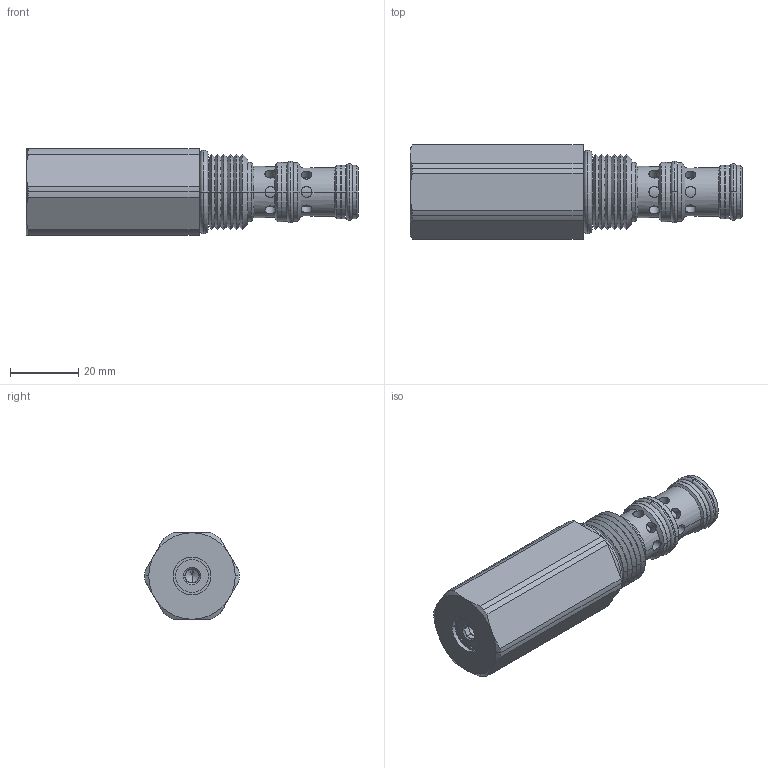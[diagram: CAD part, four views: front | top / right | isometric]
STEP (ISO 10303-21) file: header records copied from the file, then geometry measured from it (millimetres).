
FILE_DESCRIPTION((''),'2;1');
FILE_NAME('U:\Solid model CD\Solid model full\Mechanical\STEP\DFPWI0I-3D Full.stp','2008-07-29T09:22:28',('Dan'),(''),'Autodesk Inventor 9','Autodesk Inventor 9','');
FILE_SCHEMA(('AUTOMOTIVE_DESIGN { 1 0 10303 214 1 1 1 1 }'));
Length unit declared in the file: inch
Products named in the file (7): DFPWI0I-3D Full; DFPWI0I-3D Full1; DFPWI0I-3D Full2; DFPWI0I-3D Full3; DFPWI0I-3D Full4; DFPWI0I-3D Full5; DFPWI0I-3D Full6
Assembly tree (6 placements, depth 2):
  DFPWI0I-3D Full
    DFPWI0I-3D Full1
    DFPWI0I-3D Full2
    DFPWI0I-3D Full3
    DFPWI0I-3D Full4
    DFPWI0I-3D Full5
    DFPWI0I-3D Full6
Bounding box: 97.46 x 27.69 x 25.4 mm (x, y, z)
Volume: 38014.2 mm3; surface area: 11053.7 mm2
Topology: 6 solids, 6 shells, 194 faces, 454 edges, 283 vertices
Faces by surface type: cylinder 100, cone 48, plane 28, bspline 10, torus 8
Entity records: 6934 total; most frequent: CARTESIAN_POINT 2456, ORIENTED_EDGE 904, DIRECTION 894, EDGE_CURVE 452, AXIS2_PLACEMENT_3D 369, VERTEX_POINT 283, EDGE_LOOP 217, FACE_OUTER_BOUND 194
